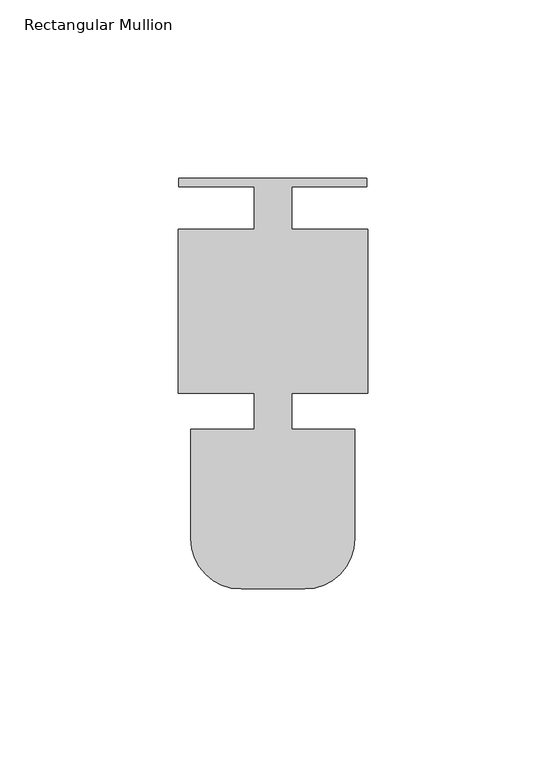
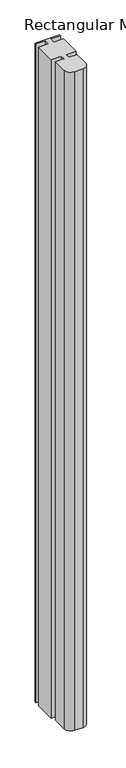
"""IFC4 building model written with IfcOpenShell, lengths in millimetres: member geometry, Rectangular Mullion : Danpal Middle Mullion."""

from ifc_helpers import new_model, si_unit, point, frame, frame_2d, origin, place, context, project, spatial, polyline, circle_curve, trimmed, segment, composite_curve, outline, extrude, source, transform, mapped, element, save


def rectangular_mullion_b9b8ca7e(model_context):
    return source(origin(), model_context, "Body", "SweptSolid", [
        extrude(outline(composite_curve([segment(polyline([(26.4016215, 82.259449), (26.4016215, 79.8669689), (5.2291344, 79.8669689), (5.2291344, 67.9), (26.6128833, 67.9), (26.6128833, 21.9008514), (5.2291344, 21.9008514), (5.2291344, 11.7887231), (23.0, 11.7887231), (23.0, -19.0073266)]), True, "CONTINUOUS"), segment(trimmed(circle_curve(frame_2d((8.9073266, -19.0073266)), 14.0926734), [point((23.0, -19.0073266))], [point((8.9073266, -33.1))], False, "CARTESIAN"), True, "CONTINUOUS"), segment(polyline([(8.9073266, -33.1), (-8.9073266, -33.1)]), True, "CONTINUOUS"), segment(trimmed(circle_curve(frame_2d((-8.9073266, -19.0073266)), 14.0926734), [point((-8.9073266, -33.1))], [point((-23.0, -19.0073266))], False, "CARTESIAN"), True, "CONTINUOUS"), segment(polyline([(-23.0, -19.0073266), (-23.0, 11.7887231), (-5.2291344, 11.7887231), (-5.2291344, 21.9008514), (-26.6128833, 21.9008514), (-26.6128833, 67.9), (-5.2291344, 67.9), (-5.2291344, 79.8669689), (-26.4016215, 79.8669689), (-26.4016215, 82.259449), (26.4016215, 82.259449)]), True, "CONTINUOUS")], self_intersect=False)), frame((0.0, 0.0, -1478.4726684), z_axis=(0.0, 0.0, 1.0), x_axis=(1.0, 0.0, 0.0)), (0.0, 0.0, 1.0), 1478.4726684),
    ])


if __name__ == "__main__":
    model = new_model("IFC4")
    model_context = context("Model", 3, world=origin())
    ifc_project = project(units=[si_unit("LENGTHUNIT", "METRE", prefix="MILLI")], contexts=[model_context])
    site = spatial("IfcSite", under=ifc_project)
    building = spatial("IfcBuilding", under=site)
    placement = place(None, origin())
    rectangular_mullion_shape = rectangular_mullion_b9b8ca7e(model_context)
    element("IfcMember", 1, ObjectType="Rectangular Mullion : Danpal Middle Mullion", at=placement, inside=building, context=model_context, shape_type="MappedRepresentation", body=[
        mapped(rectangular_mullion_shape, transform((0.0, 0.0, 0.0), x_axis=(1.0, 0.0, 0.0), y_axis=(0.0, 1.0, 0.0), z_axis=(0.0, 0.0, 1.0))),
    ])
    save(model, "model.ifc")
